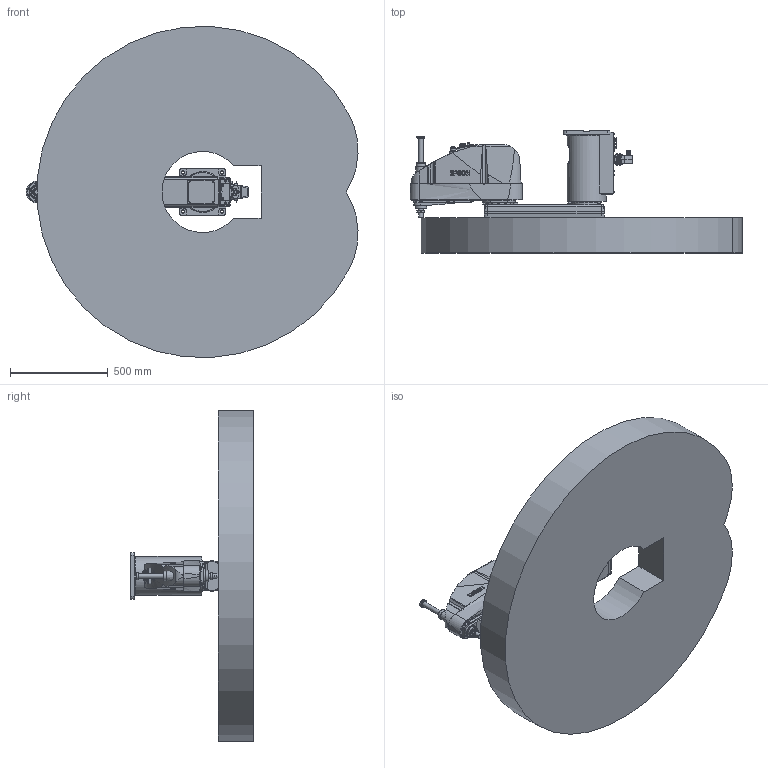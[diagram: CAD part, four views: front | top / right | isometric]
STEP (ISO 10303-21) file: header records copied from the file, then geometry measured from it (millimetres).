
FILE_DESCRIPTION( ( 'STEP AP214' ), '1' );
FILE_NAME( 'C:/Users/9607552/Desktop/GX20-B851SR_langle.stp', '2023-08-01T09:31:38', ( '' ), ( '' ), ' ', 'PARTsolutions', ' ' );
FILE_SCHEMA( ( 'AUTOMOTIVE_DESIGN { 1 0 10303 214 1 1 1 1 }' ) );
Length unit declared in the file: millimetre
Products named in the file (7): GX20-B851SRA-W; _Base sr; _Angle-B; _J1 Arm GX10-450 r/w; _J2 Arm GX10-s; _J3 Arm GX10-s (1); _GX10_20B-34_1
Assembly tree (6 placements, depth 2):
  GX20-B851SRA-W
    _Base sr
    _Angle-B
    _J1 Arm GX10-450 r/w
    _J2 Arm GX10-s
    _J3 Arm GX10-s (1)
    _GX10_20B-34_1
Bounding box: 1702.55 x 627.5 x 1697.41 mm (x, y, z)
Volume: 414290625.3 mm3; surface area: 6803108.9 mm2
Topology: 6 solids, 6 shells, 2474 faces, 6050 edges, 3955 vertices
Faces by surface type: plane 1316, cylinder 761, cone 302, torus 62, bspline 32, sphere 1
Full cylindrical faces by diameter (mm): 1 x24, 1.18 x55, 3 x32, 3.242 x10, 3.3 x4, 4.2 x4, 4.8 x4, 5.1 x4, 5.25 x2, 5.34 x8, 5.4 x5, 5.5 x16, 6 x1, 6.2 x4, 6.647 x2, 7 x31, 8 x9, 8.5 x2, 9 x4, 10 x32, 11 x14, 12 x6, 12.25 x1, 13 x2, 14 x8, 14.25 x1, 16 x6, 18 x2, 20.4 x1, 21.7 x2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
Entity records: 93758 total; most frequent: CARTESIAN_POINT 17818, DIRECTION 11580, ORIENTED_EDGE 10774, EDGE_CURVE 5387, AXIS2_PLACEMENT_3D 4402, VERTEX_POINT 3869, EDGE_LOOP 3444, FACE_OUTER_BOUND 2846
